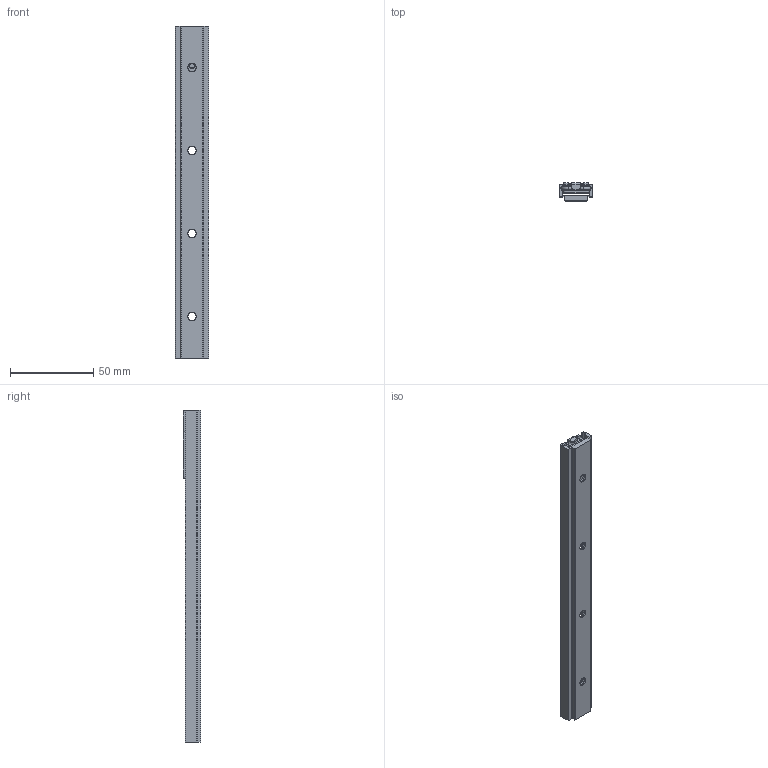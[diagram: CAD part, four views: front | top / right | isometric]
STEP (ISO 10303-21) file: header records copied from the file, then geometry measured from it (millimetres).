
FILE_DESCRIPTION (( 'STEP AP203' ), '1' );
FILE_NAME ('mlg-20c_mlg20-200_0.step', '2023-07-21T01:29:02', ( '' ), ( '' ), 'SwSTEP 2.0', 'SolidWorks 2022', '' );
FILE_SCHEMA (( 'CONFIG_CONTROL_DESIGN' ));
Length unit declared in the file: millimetre
Products named in the file (3): mlg-20c_0; mlg20-200_0_L=200; mlg-20c_mlg20-200_0
Assembly tree (2 placements, depth 2):
  mlg-20c_mlg20-200_0
    mlg20-200_0_L=200
    mlg-20c_0
Bounding box: 20.15 x 10.5 x 200 mm (x, y, z)
Volume: 15517.3 mm3; surface area: 17698.3 mm2
Topology: 2 solids, 2 shells, 421 faces, 1073 edges, 710 vertices
Faces by surface type: plane 256, cylinder 141, torus 24
Entity records: 13122 total; most frequent: DIRECTION 2263, CARTESIAN_POINT 2209, ORIENTED_EDGE 2146, EDGE_CURVE 1073, AXIS2_PLACEMENT_3D 764, VECTOR 735, LINE 735, VERTEX_POINT 710
